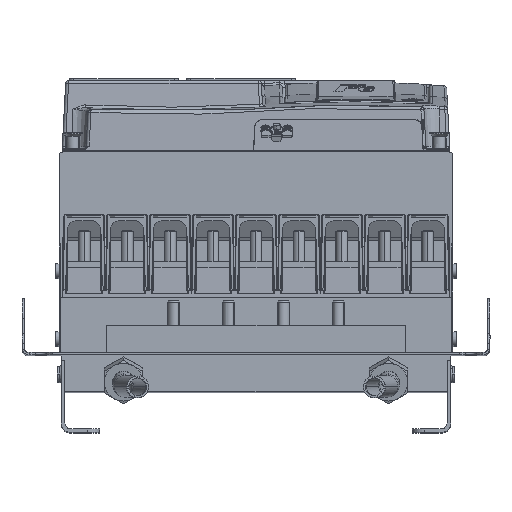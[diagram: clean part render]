
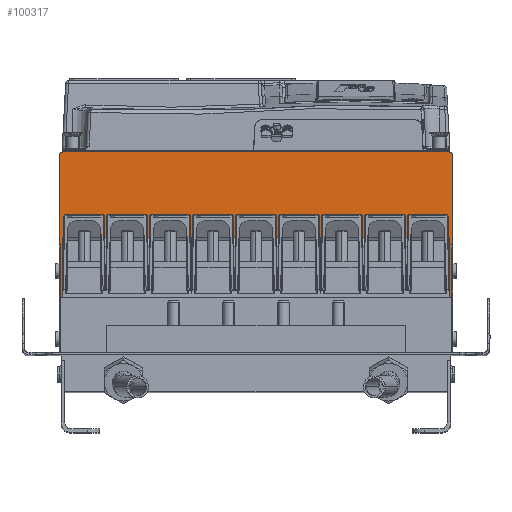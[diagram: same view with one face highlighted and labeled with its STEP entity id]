
A CAD part, top view. The second image highlights one B-rep face of the part: STEP entity #100317.
In plain terms, the highlighted planar face has unit normal (0, 0, 1).
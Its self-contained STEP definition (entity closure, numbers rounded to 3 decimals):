
#74 = VERTEX_POINT ( 'NONE', #38218 ) ;
#697 = VERTEX_POINT ( 'NONE', #86643 ) ;
#755 = LINE ( 'NONE', #60988, #83501 ) ;
#874 = EDGE_CURVE ( 'NONE', #87709, #104562, #36782, .T. ) ;
#2486 = DIRECTION ( 'NONE',  ( -1., 0., 0. ) ) ;
#3047 = CARTESIAN_POINT ( 'NONE',  ( 165.001, -77., 453. ) ) ;
#3476 = ORIENTED_EDGE ( 'NONE', *, *, #30202, .F. ) ;
#4116 = EDGE_CURVE ( 'NONE', #37355, #51390, #755, .T. ) ;
#5999 = ORIENTED_EDGE ( 'NONE', *, *, #46095, .F. ) ;
#6460 = CIRCLE ( 'NONE', #15651, 3.5 ) ;
#8012 = EDGE_CURVE ( 'NONE', #14532, #74, #67265, .T. ) ;
#11764 = CARTESIAN_POINT ( 'NONE',  ( -165., -3.5, 453. ) ) ;
#14532 = VERTEX_POINT ( 'NONE', #59817 ) ;
#15119 = VECTOR ( 'NONE', #97748, 1000. ) ;
#15200 = ORIENTED_EDGE ( 'NONE', *, *, #27594, .F. ) ;
#15651 = AXIS2_PLACEMENT_3D ( 'NONE', #112009, #52972, #42701 ) ;
#17511 = CARTESIAN_POINT ( 'NONE',  ( 163.5, -77., 453. ) ) ;
#17557 = EDGE_CURVE ( 'NONE', #697, #38604, #73570, .T. ) ;
#22935 = DIRECTION ( 'NONE',  ( 0., 1., 0. ) ) ;
#22939 = CARTESIAN_POINT ( 'NONE',  ( 0., 0., 453. ) ) ;
#23772 = VECTOR ( 'NONE', #99943, 1000. ) ;
#25421 = EDGE_LOOP ( 'NONE', ( #5999, #33541, #73984, #15200, #35867, #104694, #91392, #57730, #3476, #86907 ) ) ;
#27594 = EDGE_CURVE ( 'NONE', #51390, #104562, #36485, .T. ) ;
#30202 = EDGE_CURVE ( 'NONE', #74, #99907, #6460, .T. ) ;
#30856 = DIRECTION ( 'NONE',  ( 1., 0., 0. ) ) ;
#30964 = FACE_OUTER_BOUND ( 'NONE', #25421, .T. ) ;
#33541 = ORIENTED_EDGE ( 'NONE', *, *, #88625, .T. ) ;
#35421 = VECTOR ( 'NONE', #30856, 1000. ) ;
#35867 = ORIENTED_EDGE ( 'NONE', *, *, #4116, .F. ) ;
#36485 = LINE ( 'NONE', #55373, #90405 ) ;
#36782 = LINE ( 'NONE', #100189, #35421 ) ;
#36874 = CARTESIAN_POINT ( 'NONE',  ( -163.5, -167.9, 453. ) ) ;
#37355 = VERTEX_POINT ( 'NONE', #106413 ) ;
#37635 = AXIS2_PLACEMENT_3D ( 'NONE', #92276, #82553, #22935 ) ;
#38218 = CARTESIAN_POINT ( 'NONE',  ( 161.5, 0., 453. ) ) ;
#38604 = VERTEX_POINT ( 'NONE', #17511 ) ;
#40716 = DIRECTION ( 'NONE',  ( 0., 1., 0. ) ) ;
#42701 = DIRECTION ( 'NONE',  ( 0., 1., 0. ) ) ;
#46095 = EDGE_CURVE ( 'NONE', #91802, #14532, #66859, .T. ) ;
#48717 = DIRECTION ( 'NONE',  ( 0., 1., 0. ) ) ;
#50385 = LINE ( 'NONE', #111146, #93714 ) ;
#51390 = VERTEX_POINT ( 'NONE', #36874 ) ;
#52972 = DIRECTION ( 'NONE',  ( 0., 0., -1. ) ) ;
#53238 = EDGE_CURVE ( 'NONE', #697, #99907, #50385, .T. ) ;
#55373 = CARTESIAN_POINT ( 'NONE',  ( -163.5, 0., 453. ) ) ;
#57037 = DIRECTION ( 'NONE',  ( 1., 0., 0. ) ) ;
#57730 = ORIENTED_EDGE ( 'NONE', *, *, #53238, .T. ) ;
#58632 = LINE ( 'NONE', #93573, #23772 ) ;
#59817 = CARTESIAN_POINT ( 'NONE',  ( -161.5, 0., 453. ) ) ;
#60158 = EDGE_CURVE ( 'NONE', #38604, #37355, #58632, .T. ) ;
#60988 = CARTESIAN_POINT ( 'NONE',  ( 0., -167.9, 453. ) ) ;
#64067 = VECTOR ( 'NONE', #57037, 1000. ) ;
#66859 = CIRCLE ( 'NONE', #37635, 3.5 ) ;
#67265 = LINE ( 'NONE', #74779, #64067 ) ;
#71377 = LINE ( 'NONE', #11764, #15119 ) ;
#72446 = CARTESIAN_POINT ( 'NONE',  ( -165., -3.5, 453. ) ) ;
#73570 = LINE ( 'NONE', #3047, #84399 ) ;
#73984 = ORIENTED_EDGE ( 'NONE', *, *, #874, .T. ) ;
#74504 = PLANE ( 'NONE',  #93168 ) ;
#74779 = CARTESIAN_POINT ( 'NONE',  ( 0., 0., 453. ) ) ;
#75641 = DIRECTION ( 'NONE',  ( 0., 0., -1. ) ) ;
#78174 = DIRECTION ( 'NONE',  ( -1., 0., 0. ) ) ;
#82553 = DIRECTION ( 'NONE',  ( 0., 0., -1. ) ) ;
#83501 = VECTOR ( 'NONE', #78174, 1000. ) ;
#84399 = VECTOR ( 'NONE', #2486, 1000. ) ;
#86643 = CARTESIAN_POINT ( 'NONE',  ( 165., -77., 453. ) ) ;
#86907 = ORIENTED_EDGE ( 'NONE', *, *, #8012, .F. ) ;
#87709 = VERTEX_POINT ( 'NONE', #111239 ) ;
#88625 = EDGE_CURVE ( 'NONE', #91802, #87709, #71377, .T. ) ;
#90405 = VECTOR ( 'NONE', #98339, 1000. ) ;
#91392 = ORIENTED_EDGE ( 'NONE', *, *, #17557, .F. ) ;
#91802 = VERTEX_POINT ( 'NONE', #72446 ) ;
#92276 = CARTESIAN_POINT ( 'NONE',  ( -161.5, -3.5, 453. ) ) ;
#93168 = AXIS2_PLACEMENT_3D ( 'NONE', #22939, #75641, #48717 ) ;
#93359 = CARTESIAN_POINT ( 'NONE',  ( -163.5, -77., 453. ) ) ;
#93573 = CARTESIAN_POINT ( 'NONE',  ( 163.5, 0., 453. ) ) ;
#93714 = VECTOR ( 'NONE', #40716, 1000. ) ;
#97748 = DIRECTION ( 'NONE',  ( 0., -1., 0. ) ) ;
#98339 = DIRECTION ( 'NONE',  ( 0., 1., 0. ) ) ;
#99907 = VERTEX_POINT ( 'NONE', #109598 ) ;
#99943 = DIRECTION ( 'NONE',  ( 0., -1., 0. ) ) ;
#100189 = CARTESIAN_POINT ( 'NONE',  ( -165.001, -77., 453. ) ) ;
#100317 = ADVANCED_FACE ( 'NONE', ( #30964 ), #74504, .F. ) ;
#104562 = VERTEX_POINT ( 'NONE', #93359 ) ;
#104694 = ORIENTED_EDGE ( 'NONE', *, *, #60158, .F. ) ;
#106413 = CARTESIAN_POINT ( 'NONE',  ( 163.5, -167.9, 453. ) ) ;
#109598 = CARTESIAN_POINT ( 'NONE',  ( 165., -3.5, 453. ) ) ;
#111146 = CARTESIAN_POINT ( 'NONE',  ( 165., -3.5, 453. ) ) ;
#111239 = CARTESIAN_POINT ( 'NONE',  ( -165., -77., 453. ) ) ;
#112009 = CARTESIAN_POINT ( 'NONE',  ( 161.5, -3.5, 453. ) ) ;
